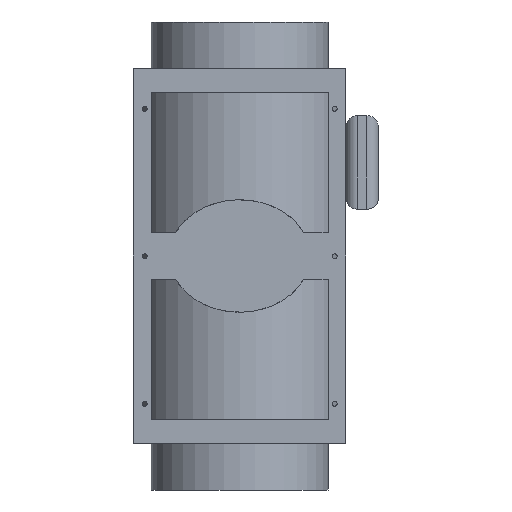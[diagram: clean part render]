
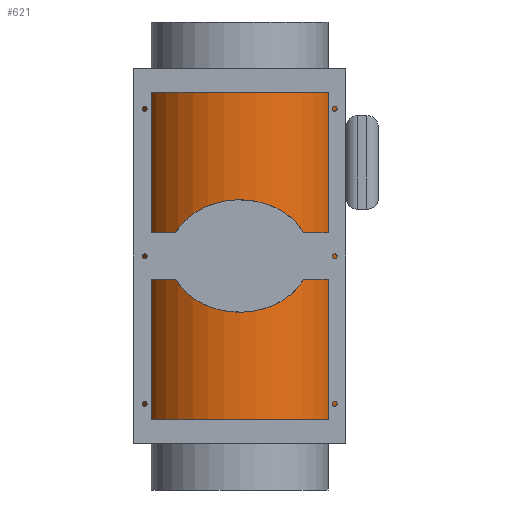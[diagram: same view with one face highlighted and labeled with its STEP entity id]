
A CAD part, front view. The second image highlights one B-rep face of the part: STEP entity #621.
In plain terms, the highlighted cylindrical face has radius 181 mm (diameter 362 mm), a partial arc.
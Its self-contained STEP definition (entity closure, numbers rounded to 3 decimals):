
#621=ADVANCED_FACE('',(#1287,#1288,#1289,#1290),#1291,.T.);
#1287=FACE_OUTER_BOUND('',#2011,.T.);
#1288=FACE_BOUND('',#2012,.T.);
#1289=FACE_BOUND('',#2013,.T.);
#1290=FACE_BOUND('',#2014,.T.);
#1291=CYLINDRICAL_SURFACE('',#2015,181.0);
#2011=EDGE_LOOP('',(#4282,#4283,#4284,#4285,#4286,#4287,#4288,#4289,#4290,#4291,#4292,#4293));
#2012=EDGE_LOOP('',(#4294,#4295,#4296,#4297));
#2013=EDGE_LOOP('',(#4298,#4299,#4300,#4301));
#2014=EDGE_LOOP('',(#4302,#4303,#4304,#4305));
#2015=AXIS2_PLACEMENT_3D('',#4306,#4307,#4308);
#4282=ORIENTED_EDGE('',*,*,#4808,.T.);
#4283=ORIENTED_EDGE('',*,*,#5410,.T.);
#4284=ORIENTED_EDGE('',*,*,#5403,.T.);
#4285=ORIENTED_EDGE('',*,*,#5448,.T.);
#4286=ORIENTED_EDGE('',*,*,#4812,.T.);
#4287=ORIENTED_EDGE('',*,*,#5477,.F.);
#4288=ORIENTED_EDGE('',*,*,#5478,.F.);
#4289=ORIENTED_EDGE('',*,*,#5479,.F.);
#4290=ORIENTED_EDGE('',*,*,#4810,.T.);
#4291=ORIENTED_EDGE('',*,*,#5480,.F.);
#4292=ORIENTED_EDGE('',*,*,#5481,.F.);
#4293=ORIENTED_EDGE('',*,*,#5482,.F.);
#4294=ORIENTED_EDGE('',*,*,#5427,.T.);
#4295=ORIENTED_EDGE('',*,*,#5416,.T.);
#4296=ORIENTED_EDGE('',*,*,#5412,.T.);
#4297=ORIENTED_EDGE('',*,*,#5420,.T.);
#4298=ORIENTED_EDGE('',*,*,#5483,.T.);
#4299=ORIENTED_EDGE('',*,*,#5484,.T.);
#4300=ORIENTED_EDGE('',*,*,#5485,.T.);
#4301=ORIENTED_EDGE('',*,*,#5486,.T.);
#4302=ORIENTED_EDGE('',*,*,#5487,.T.);
#4303=ORIENTED_EDGE('',*,*,#5488,.T.);
#4304=ORIENTED_EDGE('',*,*,#5489,.T.);
#4305=ORIENTED_EDGE('',*,*,#5490,.T.);
#4306=CARTESIAN_POINT('',(0.0,0.0,330.0));
#4307=DIRECTION('',(0.0,0.0,1.0));
#4308=DIRECTION('',(1.0,0.0,0.0));
#4808=EDGE_CURVE('',#5740,#5741,#5742,.T.);
#4810=EDGE_CURVE('',#5745,#5743,#5746,.T.);
#4812=EDGE_CURVE('',#5749,#5747,#5750,.T.);
#5403=EDGE_CURVE('',#6635,#6636,#6637,.T.);
#5410=EDGE_CURVE('',#5741,#6635,#6647,.T.);
#5412=EDGE_CURVE('',#6649,#6650,#6651,.T.);
#5416=EDGE_CURVE('',#6656,#6649,#6657,.T.);
#5420=EDGE_CURVE('',#6650,#6662,#6663,.T.);
#5427=EDGE_CURVE('',#6662,#6656,#6672,.T.);
#5448=EDGE_CURVE('',#6636,#5749,#6700,.T.);
#5477=EDGE_CURVE('',#6735,#5747,#6736,.T.);
#5478=EDGE_CURVE('',#6737,#6735,#6738,.T.);
#5479=EDGE_CURVE('',#5745,#6737,#6739,.T.);
#5480=EDGE_CURVE('',#6740,#5743,#6741,.T.);
#5481=EDGE_CURVE('',#6742,#6740,#6743,.T.);
#5482=EDGE_CURVE('',#5740,#6742,#6744,.T.);
#5483=EDGE_CURVE('',#6745,#6746,#6747,.T.);
#5484=EDGE_CURVE('',#6746,#6748,#6749,.T.);
#5485=EDGE_CURVE('',#6748,#6750,#6751,.T.);
#5486=EDGE_CURVE('',#6750,#6745,#6752,.T.);
#5487=EDGE_CURVE('',#6753,#6754,#6755,.T.);
#5488=EDGE_CURVE('',#6754,#6756,#6757,.T.);
#5489=EDGE_CURVE('',#6756,#6758,#6759,.T.);
#5490=EDGE_CURVE('',#6758,#6753,#6760,.T.);
#5740=VERTEX_POINT('',#7124);
#5741=VERTEX_POINT('',#7125);
#5742=LINE('',#7126,#7127);
#5743=VERTEX_POINT('',#7128);
#5745=VERTEX_POINT('',#7130);
#5746=LINE('',#7131,#7132);
#5747=VERTEX_POINT('',#7133);
#5749=VERTEX_POINT('',#7135);
#5750=LINE('',#7136,#7137);
#6635=VERTEX_POINT('',#9827);
#6636=VERTEX_POINT('',#9828);
#6637=LINE('',#9829,#9830);
#6647=CIRCLE('',#9845,181.0);
#6649=VERTEX_POINT('',#9847);
#6650=VERTEX_POINT('',#9848);
#6651=CIRCLE('',#9849,181.0);
#6656=VERTEX_POINT('',#9856);
#6657=LINE('',#9857,#9858);
#6662=VERTEX_POINT('',#9865);
#6663=LINE('',#9866,#9867);
#6672=CIRCLE('',#9880,181.0);
#6700=CIRCLE('',#9917,181.0);
#6735=VERTEX_POINT('',#9964);
#6736=CIRCLE('',#9965,181.0);
#6737=VERTEX_POINT('',#9966);
#6738=CIRCLE('',#9967,181.0);
#6739=CIRCLE('',#9968,181.0);
#6740=VERTEX_POINT('',#9969);
#6741=CIRCLE('',#9970,181.0);
#6742=VERTEX_POINT('',#9971);
#6743=CIRCLE('',#9972,181.0);
#6744=CIRCLE('',#9973,181.0);
#6745=VERTEX_POINT('',#9974);
#6746=VERTEX_POINT('',#9975);
#6747=LINE('',#9976,#9977);
#6748=VERTEX_POINT('',#9978);
#6749=CIRCLE('',#9979,181.0);
#6750=VERTEX_POINT('',#9980);
#6751=LINE('',#9981,#9982);
#6752=CIRCLE('',#9983,181.0);
#6753=VERTEX_POINT('',#9984);
#6754=VERTEX_POINT('',#9985);
#6755=LINE('',#9986,#9987);
#6756=VERTEX_POINT('',#9988);
#6757=CIRCLE('',#9989,181.0);
#6758=VERTEX_POINT('',#9990);
#6759=LINE('',#9991,#9992);
#6760=CIRCLE('',#9993,181.0);
#7124=CARTESIAN_POINT('',(181.0,0.,4.0));
#7125=CARTESIAN_POINT('',(181.0,0.,433.125));
#7126=CARTESIAN_POINT('',(181.0,0.,330.0));
#7127=VECTOR('',#10382,1.0);
#7128=CARTESIAN_POINT('',(-181.0,0.,4.0));
#7130=CARTESIAN_POINT('',(-181.0,0.,656.0));
#7131=CARTESIAN_POINT('',(-181.0,0.,330.0));
#7132=VECTOR('',#10386,1.0);
#7133=CARTESIAN_POINT('',(181.0,0.,656.0));
#7135=CARTESIAN_POINT('',(181.0,0.,556.875));
#7136=CARTESIAN_POINT('',(181.0,0.,330.0));
#7137=VECTOR('',#10390,1.0);
#9827=CARTESIAN_POINT('',(170.096,-61.875,433.125));
#9828=CARTESIAN_POINT('',(170.096,-61.875,556.875));
#9829=CARTESIAN_POINT('',(170.096,-61.875,495.0));
#9830=VECTOR('',#11426,1.0);
#9845=AXIS2_PLACEMENT_3D('',#11432,#11433,#11434);
#9847=CARTESIAN_POINT('',(161.105,-82.5,577.5));
#9848=CARTESIAN_POINT('',(166.575,-70.808,577.5));
#9849=AXIS2_PLACEMENT_3D('',#11435,#11436,#11437);
#9856=CARTESIAN_POINT('',(161.105,-82.5,412.5));
#9857=CARTESIAN_POINT('',(161.105,-82.5,495.0));
#9858=VECTOR('',#11440,1.0);
#9865=CARTESIAN_POINT('',(166.575,-70.808,412.5));
#9866=CARTESIAN_POINT('',(166.575,-70.808,495.0));
#9867=VECTOR('',#11443,1.0);
#9880=AXIS2_PLACEMENT_3D('',#11448,#11449,#11450);
#9917=AXIS2_PLACEMENT_3D('',#11472,#11473,#11474);
#9964=CARTESIAN_POINT('',(86.266,-159.12,656.0));
#9965=AXIS2_PLACEMENT_3D('',#11499,#11500,#11501);
#9966=CARTESIAN_POINT('',(-86.266,-159.12,656.0));
#9967=AXIS2_PLACEMENT_3D('',#11502,#11503,#11504);
#9968=AXIS2_PLACEMENT_3D('',#11505,#11506,#11507);
#9969=CARTESIAN_POINT('',(-86.266,-159.12,4.0));
#9970=AXIS2_PLACEMENT_3D('',#11508,#11509,#11510);
#9971=CARTESIAN_POINT('',(86.266,-159.12,4.0));
#9972=AXIS2_PLACEMENT_3D('',#11511,#11512,#11513);
#9973=AXIS2_PLACEMENT_3D('',#11514,#11515,#11516);
#9974=CARTESIAN_POINT('',(-82.5,-161.105,37.25));
#9975=CARTESIAN_POINT('',(-82.5,-161.105,41.25));
#9976=CARTESIAN_POINT('',(-82.5,-161.105,39.25));
#9977=VECTOR('',#11517,1.0);
#9978=CARTESIAN_POINT('',(82.5,-161.105,41.25));
#9979=AXIS2_PLACEMENT_3D('',#11518,#11519,#11520);
#9980=CARTESIAN_POINT('',(82.5,-161.105,37.25));
#9981=CARTESIAN_POINT('',(82.5,-161.105,39.25));
#9982=VECTOR('',#11521,1.0);
#9983=AXIS2_PLACEMENT_3D('',#11522,#11523,#11524);
#9984=CARTESIAN_POINT('',(82.5,-161.105,622.75));
#9985=CARTESIAN_POINT('',(82.5,-161.105,618.75));
#9986=CARTESIAN_POINT('',(82.5,-161.105,620.75));
#9987=VECTOR('',#11525,1.0);
#9988=CARTESIAN_POINT('',(-82.5,-161.105,618.75));
#9989=AXIS2_PLACEMENT_3D('',#11526,#11527,#11528);
#9990=CARTESIAN_POINT('',(-82.5,-161.105,622.75));
#9991=CARTESIAN_POINT('',(-82.5,-161.105,620.75));
#9992=VECTOR('',#11529,1.0);
#9993=AXIS2_PLACEMENT_3D('',#11530,#11531,#11532);
#10382=DIRECTION('',(0.0,0.0,1.0));
#10386=DIRECTION('',(-0.0,-0.0,-1.0));
#10390=DIRECTION('',(0.0,0.0,1.0));
#11426=DIRECTION('',(0.0,0.0,1.0));
#11432=CARTESIAN_POINT('',(0.0,0.0,433.125));
#11433=DIRECTION('',(0.,0.,-1.0));
#11434=DIRECTION('',(1.0,0.,0.));
#11435=CARTESIAN_POINT('',(0.0,0.0,577.5));
#11436=DIRECTION('',(0.0,0.0,1.0));
#11437=DIRECTION('',(1.0,0.0,0.0));
#11440=DIRECTION('',(0.0,0.0,1.0));
#11443=DIRECTION('',(-0.0,-0.0,-1.0));
#11448=CARTESIAN_POINT('',(0.0,0.0,412.5));
#11449=DIRECTION('',(0.0,0.0,-1.0));
#11450=DIRECTION('',(1.0,0.0,0.0));
#11472=CARTESIAN_POINT('',(0.0,0.0,556.875));
#11473=DIRECTION('',(0.,0.,1.0));
#11474=DIRECTION('',(1.0,0.,0.));
#11499=CARTESIAN_POINT('',(0.0,0.0,656.0));
#11500=DIRECTION('',(0.0,0.0,1.0));
#11501=DIRECTION('',(1.0,0.0,0.0));
#11502=CARTESIAN_POINT('',(0.0,0.0,656.0));
#11503=DIRECTION('',(0.0,0.0,1.0));
#11504=DIRECTION('',(1.0,0.0,0.0));
#11505=CARTESIAN_POINT('',(0.0,0.0,656.0));
#11506=DIRECTION('',(0.0,0.0,1.0));
#11507=DIRECTION('',(1.0,0.0,0.0));
#11508=CARTESIAN_POINT('',(0.0,0.0,4.0));
#11509=DIRECTION('',(0.0,0.0,-1.0));
#11510=DIRECTION('',(1.0,0.0,0.0));
#11511=CARTESIAN_POINT('',(0.0,0.0,4.0));
#11512=DIRECTION('',(0.0,0.0,-1.0));
#11513=DIRECTION('',(1.0,0.0,0.0));
#11514=CARTESIAN_POINT('',(0.0,0.0,4.0));
#11515=DIRECTION('',(0.0,0.0,-1.0));
#11516=DIRECTION('',(1.0,0.0,0.0));
#11517=DIRECTION('',(0.0,0.0,1.0));
#11518=CARTESIAN_POINT('',(0.0,0.0,41.25));
#11519=DIRECTION('',(0.0,0.0,1.0));
#11520=DIRECTION('',(1.0,0.0,0.0));
#11521=DIRECTION('',(-0.0,-0.0,-1.0));
#11522=CARTESIAN_POINT('',(0.0,0.0,37.25));
#11523=DIRECTION('',(0.0,0.0,-1.0));
#11524=DIRECTION('',(1.0,0.0,0.0));
#11525=DIRECTION('',(-0.0,-0.0,-1.0));
#11526=CARTESIAN_POINT('',(0.0,0.0,618.75));
#11527=DIRECTION('',(0.0,0.0,-1.0));
#11528=DIRECTION('',(1.0,0.0,0.0));
#11529=DIRECTION('',(0.0,0.0,1.0));
#11530=CARTESIAN_POINT('',(0.0,0.0,622.75));
#11531=DIRECTION('',(0.0,0.0,1.0));
#11532=DIRECTION('',(1.0,0.0,0.0));
